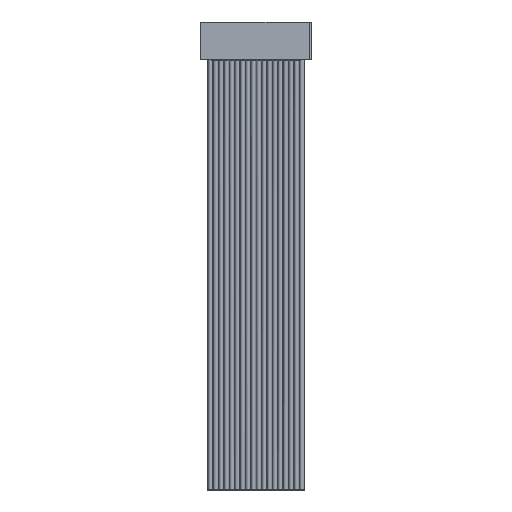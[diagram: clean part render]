
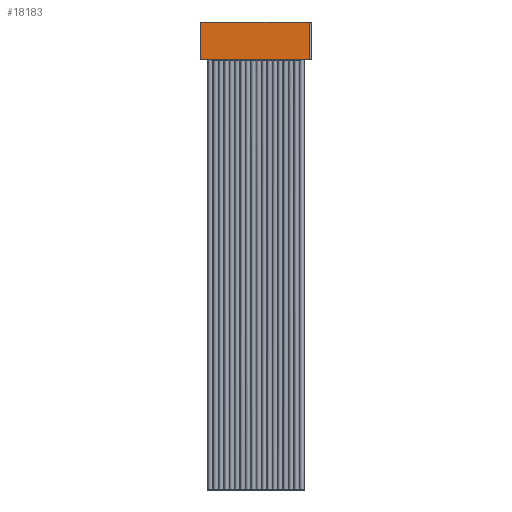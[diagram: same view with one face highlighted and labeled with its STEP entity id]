
A CAD part, front view. The second image highlights one B-rep face of the part: STEP entity #18183.
In plain terms, the highlighted planar face has unit normal (0, -1, 0).
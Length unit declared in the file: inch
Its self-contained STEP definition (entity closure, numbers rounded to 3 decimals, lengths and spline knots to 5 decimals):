
#489 = EDGE_LOOP ( 'NONE', ( #9442, #8851, #14706, #8487 ) ) ;
#902 = CARTESIAN_POINT ( 'NONE',  ( 0.2475, -0.035, 0.0865 ) ) ;
#1297 = LINE ( 'NONE', #902, #14204 ) ;
#3124 = LINE ( 'NONE', #8094, #21766 ) ;
#3300 = VERTEX_POINT ( 'NONE', #4766 ) ;
#4445 = DIRECTION ( 'NONE',  ( 0., 0., 1. ) ) ;
#4670 = DIRECTION ( 'NONE',  ( 0., 0., 1. ) ) ;
#4676 = AXIS2_PLACEMENT_3D ( 'NONE', #11615, #6401, #18680 ) ;
#4766 = CARTESIAN_POINT ( 'NONE',  ( -0.2575, -0.035, 0.0865 ) ) ;
#4866 = CARTESIAN_POINT ( 'NONE',  ( -0.2575, -0.035, -0.0865 ) ) ;
#5043 = CARTESIAN_POINT ( 'NONE',  ( 0.2475, -0.035, -0.0865 ) ) ;
#5318 = VECTOR ( 'NONE', #9422, 39.37008 ) ;
#6334 = PLANE ( 'NONE',  #4676 ) ;
#6401 = DIRECTION ( 'NONE',  ( 0., -1., 0. ) ) ;
#6493 = LINE ( 'NONE', #11803, #19962 ) ;
#7667 = CARTESIAN_POINT ( 'NONE',  ( -0.3575, -0.035, -0.0865 ) ) ;
#8094 = CARTESIAN_POINT ( 'NONE',  ( -0.2575, -0.035, -0.0865 ) ) ;
#8279 = DIRECTION ( 'NONE',  ( 1., 0., 0. ) ) ;
#8407 = FACE_OUTER_BOUND ( 'NONE', #489, .T. ) ;
#8487 = ORIENTED_EDGE ( 'NONE', *, *, #11940, .F. ) ;
#8629 = VERTEX_POINT ( 'NONE', #4866 ) ;
#8851 = ORIENTED_EDGE ( 'NONE', *, *, #21393, .F. ) ;
#9422 = DIRECTION ( 'NONE',  ( -1., 0., 0. ) ) ;
#9442 = ORIENTED_EDGE ( 'NONE', *, *, #16099, .F. ) ;
#9526 = VERTEX_POINT ( 'NONE', #5043 ) ;
#10161 = CARTESIAN_POINT ( 'NONE',  ( 0.2475, -0.035, 0.0865 ) ) ;
#11615 = CARTESIAN_POINT ( 'NONE',  ( -0.3575, -0.035, -0.0865 ) ) ;
#11803 = CARTESIAN_POINT ( 'NONE',  ( -0.3575, -0.035, 0.0865 ) ) ;
#11940 = EDGE_CURVE ( 'NONE', #3300, #19105, #6493, .T. ) ;
#14204 = VECTOR ( 'NONE', #4445, 39.37008 ) ;
#14666 = LINE ( 'NONE', #7667, #5318 ) ;
#14706 = ORIENTED_EDGE ( 'NONE', *, *, #18115, .T. ) ;
#16099 = EDGE_CURVE ( 'NONE', #8629, #3300, #3124, .T. ) ;
#18115 = EDGE_CURVE ( 'NONE', #9526, #19105, #1297, .T. ) ;
#18183 = ADVANCED_FACE ( 'NONE', ( #8407 ), #6334, .T. ) ;
#18680 = DIRECTION ( 'NONE',  ( 0., 0., -1. ) ) ;
#19105 = VERTEX_POINT ( 'NONE', #10161 ) ;
#19962 = VECTOR ( 'NONE', #8279, 39.37008 ) ;
#21393 = EDGE_CURVE ( 'NONE', #9526, #8629, #14666, .T. ) ;
#21766 = VECTOR ( 'NONE', #4670, 39.37008 ) ;
